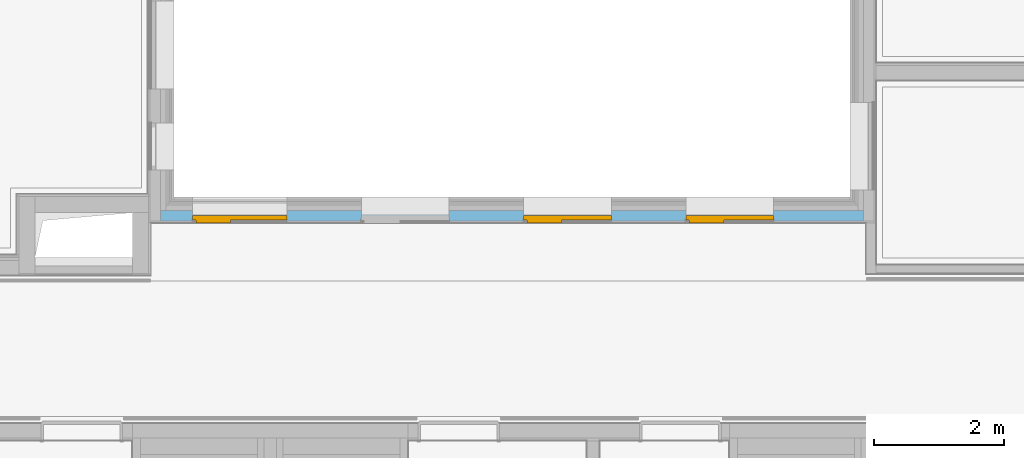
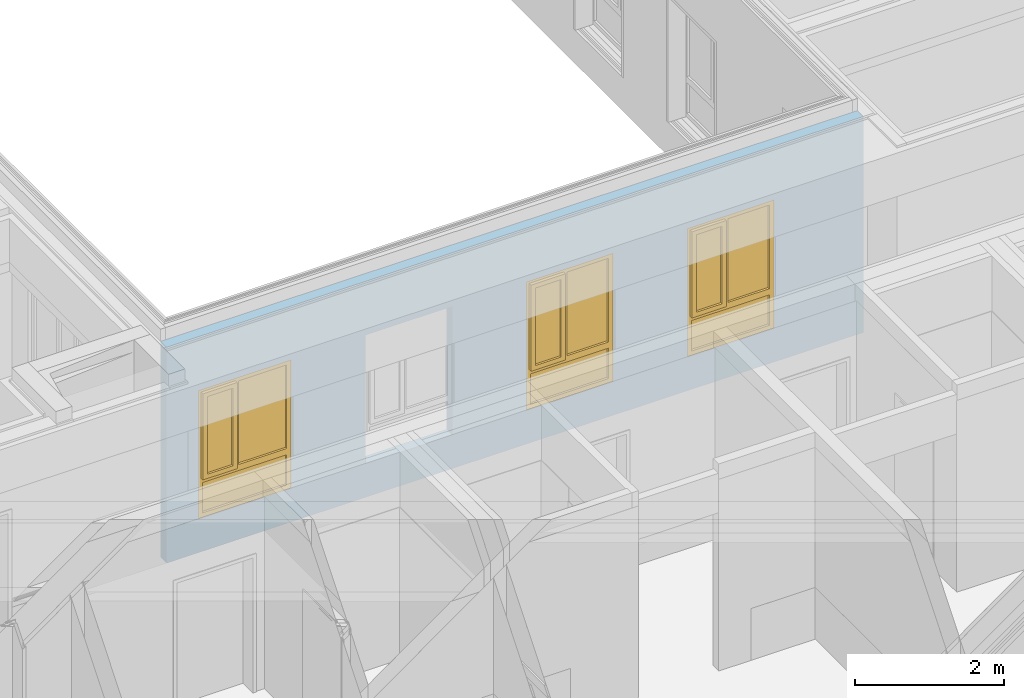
# One storey, part 124 of 222: 3 windows, 4 openings, plus 1 element that does not belong to this part.
"""IFC4 building model written with IfcOpenShell, lengths in metres."""

import ifcopenshell
import ifcopenshell.guid

model = None  # the IFC model being written
_history = None  # IfcOwnerHistory: only IFC2X3 demands one
_inside = {}  # id of a spatial element -> (the spatial element, [elements in it])
_under = {}  # id of a project, library or spatial element -> (it, [spatial elements below it])
_declared = {}  # id of a project -> (the project, [libraries it declares])
_typed = {}  # id of a type object -> (the type object, [elements of that type])
_made_of = {}  # id of a material, layer set ... -> (it, [elements and type objects made of it])


def new_model(schema):
    """Start an empty IFC model of exactly this schema.

    Asked for "IFC4X3", IfcOpenShell would pick the latest addendum, in which some entities
    have other attributes; the version numbers below select the first issue.
    IFC2X3 requires an IfcOwnerHistory on every rooted entity: one is made here for all.
    """
    global model, _history
    if schema == "IFC4X3":
        model = ifcopenshell.file(schema_version=(4, 3, 0, 0))
    else:
        model = ifcopenshell.file(schema=schema)
    _inside.clear()
    _under.clear()
    _declared.clear()
    _typed.clear()
    _made_of.clear()
    _history = None
    if model.schema == "IFC2X3":
        org = make("IfcOrganization", Name="unknown")
        user = make(
            "IfcPersonAndOrganization",
            ThePerson=make("IfcPerson", FamilyName="unknown"),
            TheOrganization=org,
        )
        app = make(
            "IfcApplication",
            ApplicationDeveloper=org,
            Version="unknown",
            ApplicationFullName="unknown",
            ApplicationIdentifier="unknown",
        )
        _history = make(
            "IfcOwnerHistory",
            OwningUser=user,
            OwningApplication=app,
            ChangeAction="ADDED",
            CreationDate=0,
        )
    return model


def make(cls, **values):
    """One entity of the class cls with the attributes given. An attribute that is None is left unset."""
    return model.create_entity(
        cls, **{name: value for name, value in values.items() if value is not None}
    )


def entity(cls, *values):
    """Any entity or typed value of the class cls, its attributes in the order of the schema. None: left unset."""
    e = model.create_entity(cls)
    for i, value in enumerate(values):
        if value is not None:
            e[i] = value
    return e


def rooted(cls, **values):
    """An entity with a GlobalId (a new one), such as an element, a storey or a relation."""
    return make(cls, GlobalId=ifcopenshell.guid.new(), OwnerHistory=_history, **values)


def si_unit(unit_type, name, prefix=None):
    """IfcSIUnit, for example si_unit("LENGTHUNIT", "METRE", prefix="MILLI")."""
    return make("IfcSIUnit", UnitType=unit_type, Prefix=prefix, Name=name)


def converted_unit(unit_type, name, factor, base, dimensions=None, offset=None):
    """IfcConversionBasedUnit, such as the inch: factor (a typed value) times the base unit."""
    return make(
        "IfcConversionBasedUnit"
        if offset is None
        else "IfcConversionBasedUnitWithOffset",
        ConversionOffset=offset,
        Dimensions=None
        if dimensions is None
        else entity("IfcDimensionalExponents", *dimensions),
        UnitType=unit_type,
        Name=name,
        ConversionFactor=make(
            "IfcMeasureWithUnit", ValueComponent=factor, UnitComponent=base
        ),
    )


def derived_unit(unit_type, elements):
    """IfcDerivedUnit: a product of units, each with its exponent."""
    return make(
        "IfcDerivedUnit",
        Elements=[
            make("IfcDerivedUnitElement", Unit=unit, Exponent=power)
            for unit, power in elements
        ],
        UnitType=unit_type,
    )


def assignment(units):
    """IfcUnitAssignment: the units of a project."""
    return None if units is None else make("IfcUnitAssignment", Units=units)


def point(xyz):
    """IfcCartesianPoint."""
    return None if xyz is None else make("IfcCartesianPoint", Coordinates=xyz)


def direction(xyz):
    """IfcDirection."""
    return None if xyz is None else make("IfcDirection", DirectionRatios=xyz)


def frame(location, z_axis=None, x_axis=None):
    """IfcAxis2Placement3D, a coordinate frame: its origin and axes. An axis left out is left unset."""
    return make(
        "IfcAxis2Placement3D",
        Location=point(location),
        Axis=direction(z_axis),
        RefDirection=direction(x_axis),
    )


def frame_2d(location, x_axis=None):
    """IfcAxis2Placement2D, a coordinate frame in the plane: its origin and x axis."""
    return make(
        "IfcAxis2Placement2D", Location=point(location), RefDirection=direction(x_axis)
    )


def origin():
    """The frame at (0, 0, 0) with its axes left unset."""
    return frame((0.0, 0.0, 0.0))


def origin_with_axes():
    """The frame at (0, 0, 0) with the z axis (0, 0, 1) and the x axis (1, 0, 0) written out."""
    return frame((0.0, 0.0, 0.0), z_axis=(0.0, 0.0, 1.0), x_axis=(1.0, 0.0, 0.0))


def place(relative_to, where):
    """IfcLocalPlacement: puts the frame where relative to a parent placement (None: the world)."""
    return make(
        "IfcLocalPlacement", PlacementRelTo=relative_to, RelativePlacement=where
    )


def context(
    kind, dimensions, precision=None, world=None, true_north=None, identifier=None
):
    """IfcGeometricRepresentationContext, for example the 3D "Model" context."""
    return make(
        "IfcGeometricRepresentationContext",
        ContextIdentifier=identifier,
        ContextType=kind,
        CoordinateSpaceDimension=dimensions,
        Precision=precision,
        WorldCoordinateSystem=world,
        TrueNorth=true_north,
    )


def subcontext(parent, identifier, kind, view, scale=None):
    """IfcGeometricRepresentationSubContext, for example "Body" below "Model"."""
    return make(
        "IfcGeometricRepresentationSubContext",
        ContextIdentifier=identifier,
        ContextType=kind,
        ParentContext=parent,
        TargetScale=scale,
        TargetView=view,
    )


def project(units=None, contexts=None):
    """IfcProject with its units and contexts."""
    return rooted(
        "IfcProject",
        Name="project",
        RepresentationContexts=contexts,
        UnitsInContext=assignment(units),
    )


def spatial(cls, under=None, at=None, **own):
    """A site, building, storey or space (cls), placed at a placement, below another one or the project."""
    s = rooted(cls, ObjectPlacement=at, **own)
    if under is not None:
        _under.setdefault(under.id(), (under, []))[1].append(s)
    return s


def polyline(points):
    """IfcPolyline through the points."""
    return make("IfcPolyline", Points=[point(p) for p in points])


def profile(cls, at=None, kind="AREA", **sizes):
    """A parametric profile (cls). Its sizes go by their IFC names, for example OverallWidth=200.0."""
    return make(cls, ProfileType=kind, Position=at, **sizes)


def rectangle(**sizes):
    """IfcRectangleProfileDef."""
    return profile("IfcRectangleProfileDef", **sizes)


def outline(outer, holes=None, kind="AREA"):
    """IfcArbitraryClosedProfileDef: a profile drawn as a closed curve; with holes, ...WithVoids."""
    if holes is None:
        return make("IfcArbitraryClosedProfileDef", ProfileType=kind, OuterCurve=outer)
    return make(
        "IfcArbitraryProfileDefWithVoids",
        ProfileType=kind,
        OuterCurve=outer,
        InnerCurves=holes,
    )


def extrude(swept, where, along, depth):
    """IfcExtrudedAreaSolid: the profile swept, set in the frame where, extruded along a direction by depth."""
    return make(
        "IfcExtrudedAreaSolid",
        SweptArea=swept,
        Position=where,
        ExtrudedDirection=direction(along),
        Depth=depth,
    )


def faces_of(points, faces, orient=None, outer=None):
    """IfcFace entities. A face is a list of loops; a loop is a list of indices into points, from 0.

    orient and outer hold one flag for each loop. By default every Orientation is true, the
    first loop of a face is its IfcFaceOuterBound and the others are IfcFaceBound.
    """
    made = []
    for i, loops in enumerate(faces):
        bounds = []
        for j, loop in enumerate(loops):
            is_outer = j == 0 if outer is None else outer[i][j]
            bounds.append(
                make(
                    "IfcFaceOuterBound" if is_outer else "IfcFaceBound",
                    Bound=make("IfcPolyLoop", Polygon=[points[k] for k in loop]),
                    Orientation=True if orient is None else orient[i][j],
                )
            )
        made.append(make("IfcFace", Bounds=bounds))
    return made


def closed_shell(faces, orient=None, outer=None):
    """The faces of one IfcClosedShell. faceted_brep and surface_model build it on their shared points."""
    return ("IfcClosedShell", faces, orient, outer)


def open_shell(faces, orient=None, outer=None):
    """The faces of one IfcOpenShell. surface_model builds it on its shared points."""
    return ("IfcOpenShell", faces, orient, outer)


def surface_model(cls, points, shells):
    """IfcFaceBasedSurfaceModel or IfcShellBasedSurfaceModel (cls): surfaces that need not close."""
    shared = [point(p) for p in points]
    made = [make(c, CfsFaces=faces_of(shared, fs, o, b)) for c, fs, o, b in shells]
    if cls == "IfcFaceBasedSurfaceModel":
        return make(cls, FbsmFaces=made)
    return make(cls, SbsmBoundary=made)


def shape(context_of_items, identifier, shape_type, items):
    """IfcShapeRepresentation: the items that make up one representation, for example the "Body"."""
    return make(
        "IfcShapeRepresentation",
        ContextOfItems=context_of_items,
        RepresentationIdentifier=identifier,
        RepresentationType=shape_type,
        Items=items,
    )


def source(mapping_origin, context_of_items, identifier, shape_type, items):
    """IfcRepresentationMap: a shape defined once, which mapped items show again and again."""
    return make(
        "IfcRepresentationMap",
        MappingOrigin=mapping_origin,
        MappedRepresentation=shape(context_of_items, identifier, shape_type, items),
    )


def transform(
    local_origin,
    x_axis=None,
    y_axis=None,
    z_axis=None,
    scale=None,
    scale2=None,
    scale3=None,
    uniform=True,
):
    """IfcCartesianTransformationOperator3D, or its non-uniform kind. x_axis, y_axis, z_axis: its Axis1, 2, 3."""
    if uniform:
        return make(
            "IfcCartesianTransformationOperator3D",
            Axis1=direction(x_axis),
            Axis2=direction(y_axis),
            LocalOrigin=point(local_origin),
            Scale=scale,
            Axis3=direction(z_axis),
        )
    return make(
        "IfcCartesianTransformationOperator3DnonUniform",
        Axis1=direction(x_axis),
        Axis2=direction(y_axis),
        LocalOrigin=point(local_origin),
        Scale=scale,
        Axis3=direction(z_axis),
        Scale2=scale2,
        Scale3=scale3,
    )


def mapped(mapping_source, mapping_target):
    """IfcMappedItem: shows the shape of a source again, moved by a transform."""
    return make(
        "IfcMappedItem", MappingSource=mapping_source, MappingTarget=mapping_target
    )


def material(Name=None, Category=None):
    """IfcMaterial."""
    return make("IfcMaterial", Name=Name, Category=Category)


def made_of(thing, what):
    """Note that an element or type object is made of a material, layer set ...; save() writes the relation."""
    if what is not None:
        _made_of.setdefault(what.id(), (what, []))[1].append(thing)
    return thing


def element(
    cls,
    number,
    at=None,
    inside=None,
    cuts=None,
    type_object=None,
    material=None,
    context=None,
    identifier="Body",
    shape_type=None,
    held_by="IfcProductDefinitionShape",
    body=None,
    shapes=None,
    **own,
):
    """One element of the class cls, such as IfcWall. Its Tag is "e" and its number.

    at: its placement. inside: the storey or other place that contains it. cuts: it is an
    opening in that element (IfcRelVoidsElement). A single representation is given by context,
    identifier, shape_type and body (its items); several are given by shapes. held_by: the class
    of the entity that holds the representations. save() writes the other relations.
    """
    e = rooted(cls, Tag="e%d" % number, ObjectPlacement=at, **own)
    if body is not None:
        shapes = [shape(context, identifier, shape_type, body)]
    if shapes is not None:
        e.Representation = make(held_by, Representations=shapes)
    if inside is not None:
        _inside.setdefault(inside.id(), (inside, []))[1].append(e)
    if cuts is not None:
        rooted(
            "IfcRelVoidsElement", RelatingBuildingElement=cuts, RelatedOpeningElement=e
        )
    if type_object is not None:
        _typed.setdefault(type_object.id(), (type_object, []))[1].append(e)
    return made_of(e, material)


def fill(opening, filler):
    """IfcRelFillsElement: the door or window that sits in an opening."""
    return rooted(
        "IfcRelFillsElement",
        RelatingOpeningElement=opening,
        RelatedBuildingElement=filler,
    )


def aggregate(whole, parts):
    """IfcRelAggregates: a whole, such as a stair, and the parts it consists of."""
    return rooted("IfcRelAggregates", RelatingObject=whole, RelatedObjects=parts)


def save(model, path):
    """Write the relations noted so far, then the file.

    IfcRelAggregates (storeys below a building ...), IfcRelContainedInSpatialStructure (elements
    in a storey), IfcRelDefinesByType, IfcRelAssociatesMaterial and IfcRelDeclares: one each for
    every whole, place, type object, material and project.
    """
    for whole, parts in _under.values():
        aggregate(whole, parts)
    for where, things in _inside.values():
        rooted(
            "IfcRelContainedInSpatialStructure",
            RelatedElements=things,
            RelatingStructure=where,
        )
    for kind, things in _typed.values():
        rooted("IfcRelDefinesByType", RelatedObjects=things, RelatingType=kind)
    for what, things in _made_of.values():
        rooted("IfcRelAssociatesMaterial", RelatedObjects=things, RelatingMaterial=what)
    for by, libraries in _declared.values():
        rooted("IfcRelDeclares", RelatingContext=by, RelatedDefinitions=libraries)
    model.write(path)


model = new_model("IFC4")

# Units and contexts
model_context = context("Model", 3, precision=1e-05, world=origin())
body_context = subcontext(model_context, "Body", "Model", "MODEL_VIEW")
ifc_project = project(units=[si_unit("LENGTHUNIT", "METRE"), si_unit("AREAUNIT", "SQUARE_METRE"), si_unit("VOLUMEUNIT", "CUBIC_METRE"), si_unit("MASSUNIT", "GRAM", prefix="KILO"), converted_unit("PLANEANGLEUNIT", "DEGREE", entity("IfcPlaneAngleMeasure", 0.0174532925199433), si_unit("PLANEANGLEUNIT", "RADIAN"), dimensions=[0, 0, 0, 0, 0, 0, 0]), derived_unit("THERMALTRANSMITTANCEUNIT", [(si_unit("POWERUNIT", "WATT"), 1), (si_unit("THERMODYNAMICTEMPERATUREUNIT", "KELVIN"), -1), (si_unit("LENGTHUNIT", "METRE"), -2)]), derived_unit("VOLUMETRICFLOWRATEUNIT", [(si_unit("LENGTHUNIT", "METRE"), 3), (converted_unit("TIMEUNIT", "hour", entity("IfcTimeMeasure", 3600.0), si_unit("TIMEUNIT", "SECOND"), dimensions=[0, 0, 1, 0, 0, 0, 0]), -1), (si_unit("LENGTHUNIT", "METRE"), -1)])], contexts=[model_context])

# Site, building, storey
site_placement = place(None, origin())
site = spatial("IfcSite", under=ifc_project, at=site_placement, Name="Psychiatrie Neubau Wunstorf", CompositionType="ELEMENT")
building_placement = place(site_placement, origin())
building = spatial("IfcBuilding", under=site, at=building_placement, Name="Neubau H2 Stationsgebäude", CompositionType="ELEMENT")
storey_placement = place(building_placement, frame((0.0, 0.0, 3.6)))
storey = spatial("IfcBuildingStorey", under=building, at=storey_placement, Name="H2 Ebene +1", CompositionType="ELEMENT", Elevation=3.6)

# Wall, openings, windows
ifc_material = material(Name="WA-DL")
wall_placement = place(storey_placement, frame((79.335, 8.45000000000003, 0.0), z_axis=(0.0, 0.0, 1.0), x_axis=(1.0, -6.71833574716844e-16, 0.0)))
wall = element("IfcWall", 1, at=wall_placement, inside=storey, material=ifc_material, context=body_context, shape_type="SweptSolid", body=[
    extrude(rectangle(XDim=10.83, YDim=0.16, at=frame_2d((5.415, 0.08), x_axis=(1.0, 0.0))), origin_with_axes(), (0.0, 0.0, 1.0), 3.55),
])
opening_1_placement = place(wall_placement, frame((1.9448371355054, 0.16, 0.55), z_axis=(0.0, -1.0, 0.0), x_axis=(0.0, 0.0, 1.0)))
opening_1 = element("IfcOpeningElement", 2, at=opening_1_placement, cuts=wall, Name="Fensteröffnung", ObjectType="Opening", context=body_context, shape_type="SweptSolid", body=[
    extrude(outline(polyline([(2.115, 1.45), (2.115, 0.0), (0.0, 0.0), (0.0, 1.45), (2.115, 1.45)])), origin_with_axes(), (0.0, 0.0, 1.0), 0.16),
])
opening_2_placement = place(wall_placement, frame((9.4447, 0.160000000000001, 0.55), z_axis=(0.0, -1.0, 0.0), x_axis=(0.0, 0.0, 1.0)))
opening_2 = element("IfcOpeningElement", 3, at=opening_2_placement, cuts=wall, Name="Fensteröffnung", ObjectType="Opening", context=body_context, shape_type="SweptSolid", body=[
    extrude(outline(polyline([(2.115, 1.35), (2.115, 0.0), (0.0, 0.0), (0.0, 1.35), (2.115, 1.35)])), origin_with_axes(), (0.0, 0.0, 1.0), 0.16),
])
opening_3_placement = place(wall_placement, frame((6.9447, 0.159999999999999, 0.55), z_axis=(0.0, -1.0, 0.0), x_axis=(0.0, 0.0, 1.0)))
opening_3 = element("IfcOpeningElement", 4, at=opening_3_placement, cuts=wall, Name="Fensteröffnung", ObjectType="Opening", context=body_context, shape_type="SweptSolid", body=[
    extrude(outline(polyline([(2.115, 1.35), (2.115, 0.0), (0.0, 0.0), (0.0, 1.35), (2.115, 1.35)])), origin_with_axes(), (0.0, 0.0, 1.0), 0.16),
])
opening_4_placement = place(wall_placement, frame((4.4447, 0.159999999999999, 0.55), z_axis=(0.0, -1.0, 0.0), x_axis=(0.0, 0.0, 1.0)))
element("IfcOpeningElement", 5, at=opening_4_placement, cuts=wall, Name="Fensteröffnung", ObjectType="Opening", context=body_context, shape_type="SweptSolid", body=[
    extrude(outline(polyline([(2.115, 1.35), (2.115, 0.0), (0.0, 0.0), (0.0, 1.35), (2.115, 1.35)])), origin_with_axes(), (0.0, 0.0, 1.0), 0.16),
])
shared_shape_1 = source(origin_with_axes(), body_context, "Body", "SurfaceModel", [
    surface_model("IfcShellBasedSurfaceModel", [(0.0, 9.18421717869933e-06, 2.115), (0.07, 9.18421717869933e-06, 2.115), (0.07, 9.18421717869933e-06, 0.0), (0.0, 9.18421717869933e-06, 0.0), (0.0, 0.0700091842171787, 0.0), (0.07, 0.0700091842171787, 0.0), (0.07, 0.0700091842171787, 2.115), (0.0, 0.0700091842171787, 2.115)], [closed_shell([[[0, 1, 2, 3]], [[4, 5, 6, 7]], [[3, 4, 7, 0]], [[2, 5, 4, 3]], [[1, 6, 5, 2]], [[0, 7, 6, 1]]], orient=[[False], [False], [False], [False], [False], [False]])]),
    surface_model("IfcShellBasedSurfaceModel", [(1.38, 9.18421717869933e-06, 2.115), (1.45, 9.18421717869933e-06, 2.115), (1.45, 9.18421717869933e-06, 0.0), (1.38, 9.18421717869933e-06, 0.0), (1.38, 0.0700091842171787, 0.0), (1.45, 0.0700091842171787, 0.0), (1.45, 0.0700091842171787, 2.115), (1.38, 0.0700091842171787, 2.115)], [closed_shell([[[0, 1, 2, 3]], [[4, 5, 6, 7]], [[3, 4, 7, 0]], [[2, 5, 4, 3]], [[1, 6, 5, 2]], [[0, 7, 6, 1]]], orient=[[False], [False], [False], [False], [False], [False]])]),
    surface_model("IfcShellBasedSurfaceModel", [(0.07, 9.18421717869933e-06, 0.07), (1.38, 9.18421717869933e-06, 0.07), (1.38, 9.18421717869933e-06, 0.0), (0.07, 9.18421717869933e-06, 0.0), (0.07, 0.0700091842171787, 0.0), (1.38, 0.0700091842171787, 0.0), (1.38, 0.0700091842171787, 0.07), (0.07, 0.0700091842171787, 0.07)], [closed_shell([[[0, 1, 2, 3]], [[4, 5, 6, 7]], [[3, 4, 7, 0]], [[2, 5, 4, 3]], [[1, 6, 5, 2]], [[0, 7, 6, 1]]], orient=[[False], [False], [False], [False], [False], [False]])]),
    surface_model("IfcShellBasedSurfaceModel", [(0.07, 9.18421717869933e-06, 2.115), (1.38, 9.18421717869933e-06, 2.115), (1.38, 9.18421717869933e-06, 2.045), (0.07, 9.18421717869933e-06, 2.045), (0.07, 0.0700091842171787, 2.045), (1.38, 0.0700091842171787, 2.045), (1.38, 0.0700091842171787, 2.115), (0.07, 0.0700091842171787, 2.115)], [closed_shell([[[0, 1, 2, 3]], [[4, 5, 6, 7]], [[3, 4, 7, 0]], [[2, 5, 4, 3]], [[1, 6, 5, 2]], [[0, 7, 6, 1]]], orient=[[False], [False], [False], [False], [False], [False]])]),
    surface_model("IfcShellBasedSurfaceModel", [(0.07, 9.18421717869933e-06, 0.67), (1.38, 9.18421717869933e-06, 0.67), (1.38, 9.18421717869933e-06, 0.57), (0.07, 9.18421717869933e-06, 0.57), (0.07, 0.0700091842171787, 0.57), (1.38, 0.0700091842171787, 0.57), (1.38, 0.0700091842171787, 0.67), (0.07, 0.0700091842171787, 0.67)], [closed_shell([[[0, 1, 2, 3]], [[4, 5, 6, 7]], [[3, 4, 7, 0]], [[2, 5, 4, 3]], [[1, 6, 5, 2]], [[0, 7, 6, 1]]], orient=[[False], [False], [False], [False], [False], [False]])]),
    surface_model("IfcShellBasedSurfaceModel", [(0.07, 0.0350091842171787, 0.07), (0.07, 0.0350091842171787, 0.57), (1.38, 0.0350091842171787, 0.57), (1.38, 0.0350091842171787, 0.07)], [open_shell([[[0, 1, 2, 3]]], orient=[[False]])]),
    surface_model("IfcShellBasedSurfaceModel", [(0.565699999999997, 9.18421717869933e-06, 2.045), (0.635699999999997, 9.18421717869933e-06, 2.045), (0.635699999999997, 9.18421717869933e-06, 0.67), (0.565699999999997, 9.18421717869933e-06, 0.67), (0.565699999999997, 0.0700091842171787, 0.67), (0.635699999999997, 0.0700091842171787, 0.67), (0.635699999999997, 0.0700091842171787, 2.045), (0.565699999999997, 0.0700091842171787, 2.045)], [closed_shell([[[0, 1, 2, 3]], [[4, 5, 6, 7]], [[3, 4, 7, 0]], [[2, 5, 4, 3]], [[1, 6, 5, 2]], [[0, 7, 6, 1]]], orient=[[False], [False], [False], [False], [False], [False]])]),
    surface_model("IfcShellBasedSurfaceModel", [(0.05, -0.0499908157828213, 2.065), (0.12, -0.0499908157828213, 2.065), (0.12, -0.0499908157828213, 0.65), (0.05, -0.0499908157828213, 0.65), (0.05, 0.0200091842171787, 0.65), (0.12, 0.0200091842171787, 0.65), (0.12, 0.0200091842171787, 2.065), (0.05, 0.0200091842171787, 2.065)], [closed_shell([[[0, 1, 2, 3]], [[4, 5, 6, 7]], [[3, 4, 7, 0]], [[2, 5, 4, 3]], [[1, 6, 5, 2]], [[0, 7, 6, 1]]], orient=[[False], [False], [False], [False], [False], [False]])]),
    surface_model("IfcShellBasedSurfaceModel", [(0.515699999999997, -0.0499908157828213, 2.065), (0.585699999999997, -0.0499908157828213, 2.065), (0.585699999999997, -0.0499908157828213, 0.65), (0.515699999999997, -0.0499908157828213, 0.65), (0.515699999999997, 0.0200091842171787, 0.65), (0.585699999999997, 0.0200091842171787, 0.65), (0.585699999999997, 0.0200091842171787, 2.065), (0.515699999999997, 0.0200091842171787, 2.065)], [closed_shell([[[0, 1, 2, 3]], [[4, 5, 6, 7]], [[3, 4, 7, 0]], [[2, 5, 4, 3]], [[1, 6, 5, 2]], [[0, 7, 6, 1]]], orient=[[False], [False], [False], [False], [False], [False]])]),
    surface_model("IfcShellBasedSurfaceModel", [(0.12, -0.0499908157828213, 0.72), (0.515699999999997, -0.0499908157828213, 0.72), (0.515699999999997, -0.0499908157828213, 0.65), (0.12, -0.0499908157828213, 0.65), (0.12, 0.0200091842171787, 0.65), (0.515699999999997, 0.0200091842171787, 0.65), (0.515699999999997, 0.0200091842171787, 0.72), (0.12, 0.0200091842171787, 0.72)], [closed_shell([[[0, 1, 2, 3]], [[4, 5, 6, 7]], [[3, 4, 7, 0]], [[2, 5, 4, 3]], [[1, 6, 5, 2]], [[0, 7, 6, 1]]], orient=[[False], [False], [False], [False], [False], [False]])]),
    surface_model("IfcShellBasedSurfaceModel", [(0.12, -0.0499908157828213, 2.065), (0.515699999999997, -0.0499908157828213, 2.065), (0.515699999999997, -0.0499908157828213, 1.995), (0.12, -0.0499908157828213, 1.995), (0.12, 0.0200091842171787, 1.995), (0.515699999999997, 0.0200091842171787, 1.995), (0.515699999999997, 0.0200091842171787, 2.065), (0.12, 0.0200091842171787, 2.065)], [closed_shell([[[0, 1, 2, 3]], [[4, 5, 6, 7]], [[3, 4, 7, 0]], [[2, 5, 4, 3]], [[1, 6, 5, 2]], [[0, 7, 6, 1]]], orient=[[False], [False], [False], [False], [False], [False]])]),
    surface_model("IfcShellBasedSurfaceModel", [(0.635699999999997, 0.0350091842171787, 0.67), (0.635699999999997, 0.0350091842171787, 2.045), (1.38, 0.0350091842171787, 2.045), (1.38, 0.0350091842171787, 0.67)], [open_shell([[[0, 1, 2, 3]]], orient=[[False]])]),
    surface_model("IfcShellBasedSurfaceModel", [(0.12, -0.0149908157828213, 0.72), (0.12, -0.0149908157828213, 1.995), (0.515699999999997, -0.0149908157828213, 1.995), (0.515699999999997, -0.0149908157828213, 0.72)], [open_shell([[[0, 1, 2, 3]]], orient=[[False]])]),
])
window_1_placement = place(opening_1_placement, frame((0.0, 1.45, 0.146), z_axis=(1.0, 0.0, 0.0), x_axis=(0.0, -1.0, -6.71833574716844e-16)))
window_1 = element("IfcWindow", 6, at=window_1_placement, inside=storey, Name="Fenster", OverallHeight=2.115, OverallWidth=1.45, PartitioningType="USERDEFINED", PredefinedType="WINDOW", context=body_context, shape_type="MappedRepresentation", body=[
    mapped(shared_shape_1, transform((0.0, 0.0, 0.0), x_axis=(1.0, 0.0, 0.0), y_axis=(0.0, 1.0, 0.0), z_axis=(0.0, 0.0, 1.0), scale=1.0)),
])
fill(opening_1, window_1)
shared_shape_2 = source(origin_with_axes(), body_context, "Body", "SurfaceModel", [
    surface_model("IfcShellBasedSurfaceModel", [(0.0, 9.1842171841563e-06, 2.115), (0.07, 9.1842171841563e-06, 2.115), (0.07, 9.1842171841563e-06, 0.0), (0.0, 9.1842171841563e-06, 0.0), (0.0, 0.0700091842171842, 0.0), (0.07, 0.0700091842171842, 0.0), (0.07, 0.0700091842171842, 2.115), (0.0, 0.0700091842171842, 2.115)], [closed_shell([[[0, 1, 2, 3]], [[4, 5, 6, 7]], [[3, 4, 7, 0]], [[2, 5, 4, 3]], [[1, 6, 5, 2]], [[0, 7, 6, 1]]], orient=[[False], [False], [False], [False], [False], [False]])]),
    surface_model("IfcShellBasedSurfaceModel", [(1.28, 9.1842171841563e-06, 2.115), (1.35, 9.1842171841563e-06, 2.115), (1.35, 9.1842171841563e-06, 0.0), (1.28, 9.1842171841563e-06, 0.0), (1.28, 0.0700091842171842, 0.0), (1.35, 0.0700091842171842, 0.0), (1.35, 0.0700091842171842, 2.115), (1.28, 0.0700091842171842, 2.115)], [closed_shell([[[0, 1, 2, 3]], [[4, 5, 6, 7]], [[3, 4, 7, 0]], [[2, 5, 4, 3]], [[1, 6, 5, 2]], [[0, 7, 6, 1]]], orient=[[False], [False], [False], [False], [False], [False]])]),
    surface_model("IfcShellBasedSurfaceModel", [(0.07, 9.1842171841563e-06, 0.07), (1.28, 9.1842171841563e-06, 0.07), (1.28, 9.1842171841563e-06, 0.0), (0.07, 9.1842171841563e-06, 0.0), (0.07, 0.0700091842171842, 0.0), (1.28, 0.0700091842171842, 0.0), (1.28, 0.0700091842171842, 0.07), (0.07, 0.0700091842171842, 0.07)], [closed_shell([[[0, 1, 2, 3]], [[4, 5, 6, 7]], [[3, 4, 7, 0]], [[2, 5, 4, 3]], [[1, 6, 5, 2]], [[0, 7, 6, 1]]], orient=[[False], [False], [False], [False], [False], [False]])]),
    surface_model("IfcShellBasedSurfaceModel", [(0.07, 9.1842171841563e-06, 2.115), (1.28, 9.1842171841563e-06, 2.115), (1.28, 9.1842171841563e-06, 2.045), (0.07, 9.1842171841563e-06, 2.045), (0.07, 0.0700091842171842, 2.045), (1.28, 0.0700091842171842, 2.045), (1.28, 0.0700091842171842, 2.115), (0.07, 0.0700091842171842, 2.115)], [closed_shell([[[0, 1, 2, 3]], [[4, 5, 6, 7]], [[3, 4, 7, 0]], [[2, 5, 4, 3]], [[1, 6, 5, 2]], [[0, 7, 6, 1]]], orient=[[False], [False], [False], [False], [False], [False]])]),
    surface_model("IfcShellBasedSurfaceModel", [(0.07, 9.1842171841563e-06, 0.67), (1.28, 9.1842171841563e-06, 0.67), (1.28, 9.1842171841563e-06, 0.57), (0.07, 9.1842171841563e-06, 0.57), (0.07, 0.0700091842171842, 0.57), (1.28, 0.0700091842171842, 0.57), (1.28, 0.0700091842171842, 0.67), (0.07, 0.0700091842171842, 0.67)], [closed_shell([[[0, 1, 2, 3]], [[4, 5, 6, 7]], [[3, 4, 7, 0]], [[2, 5, 4, 3]], [[1, 6, 5, 2]], [[0, 7, 6, 1]]], orient=[[False], [False], [False], [False], [False], [False]])]),
    surface_model("IfcShellBasedSurfaceModel", [(0.07, 0.0350091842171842, 0.07), (0.07, 0.0350091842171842, 0.57), (1.28, 0.0350091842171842, 0.57), (1.28, 0.0350091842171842, 0.07)], [open_shell([[[0, 1, 2, 3]]], orient=[[False]])]),
    surface_model("IfcShellBasedSurfaceModel", [(0.565699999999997, 9.1842171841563e-06, 2.045), (0.635699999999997, 9.1842171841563e-06, 2.045), (0.635699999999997, 9.1842171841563e-06, 0.67), (0.565699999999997, 9.1842171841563e-06, 0.67), (0.565699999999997, 0.0700091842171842, 0.67), (0.635699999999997, 0.0700091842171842, 0.67), (0.635699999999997, 0.0700091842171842, 2.045), (0.565699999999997, 0.0700091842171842, 2.045)], [closed_shell([[[0, 1, 2, 3]], [[4, 5, 6, 7]], [[3, 4, 7, 0]], [[2, 5, 4, 3]], [[1, 6, 5, 2]], [[0, 7, 6, 1]]], orient=[[False], [False], [False], [False], [False], [False]])]),
    surface_model("IfcShellBasedSurfaceModel", [(0.05, -0.0499908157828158, 2.065), (0.12, -0.0499908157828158, 2.065), (0.12, -0.0499908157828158, 0.65), (0.05, -0.0499908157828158, 0.65), (0.05, 0.0200091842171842, 0.65), (0.12, 0.0200091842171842, 0.65), (0.12, 0.0200091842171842, 2.065), (0.05, 0.0200091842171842, 2.065)], [closed_shell([[[0, 1, 2, 3]], [[4, 5, 6, 7]], [[3, 4, 7, 0]], [[2, 5, 4, 3]], [[1, 6, 5, 2]], [[0, 7, 6, 1]]], orient=[[False], [False], [False], [False], [False], [False]])]),
    surface_model("IfcShellBasedSurfaceModel", [(0.515699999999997, -0.0499908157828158, 2.065), (0.585699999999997, -0.0499908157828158, 2.065), (0.585699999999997, -0.0499908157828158, 0.65), (0.515699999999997, -0.0499908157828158, 0.65), (0.515699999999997, 0.0200091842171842, 0.65), (0.585699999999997, 0.0200091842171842, 0.65), (0.585699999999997, 0.0200091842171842, 2.065), (0.515699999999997, 0.0200091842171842, 2.065)], [closed_shell([[[0, 1, 2, 3]], [[4, 5, 6, 7]], [[3, 4, 7, 0]], [[2, 5, 4, 3]], [[1, 6, 5, 2]], [[0, 7, 6, 1]]], orient=[[False], [False], [False], [False], [False], [False]])]),
    surface_model("IfcShellBasedSurfaceModel", [(0.12, -0.0499908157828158, 0.72), (0.515699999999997, -0.0499908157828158, 0.72), (0.515699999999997, -0.0499908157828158, 0.65), (0.12, -0.0499908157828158, 0.65), (0.12, 0.0200091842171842, 0.65), (0.515699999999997, 0.0200091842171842, 0.65), (0.515699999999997, 0.0200091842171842, 0.72), (0.12, 0.0200091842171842, 0.72)], [closed_shell([[[0, 1, 2, 3]], [[4, 5, 6, 7]], [[3, 4, 7, 0]], [[2, 5, 4, 3]], [[1, 6, 5, 2]], [[0, 7, 6, 1]]], orient=[[False], [False], [False], [False], [False], [False]])]),
    surface_model("IfcShellBasedSurfaceModel", [(0.12, -0.0499908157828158, 2.065), (0.515699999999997, -0.0499908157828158, 2.065), (0.515699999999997, -0.0499908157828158, 1.995), (0.12, -0.0499908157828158, 1.995), (0.12, 0.0200091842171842, 1.995), (0.515699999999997, 0.0200091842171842, 1.995), (0.515699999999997, 0.0200091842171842, 2.065), (0.12, 0.0200091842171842, 2.065)], [closed_shell([[[0, 1, 2, 3]], [[4, 5, 6, 7]], [[3, 4, 7, 0]], [[2, 5, 4, 3]], [[1, 6, 5, 2]], [[0, 7, 6, 1]]], orient=[[False], [False], [False], [False], [False], [False]])]),
    surface_model("IfcShellBasedSurfaceModel", [(0.635699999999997, 0.0350091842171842, 0.67), (0.635699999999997, 0.0350091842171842, 2.045), (1.28, 0.0350091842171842, 2.045), (1.28, 0.0350091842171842, 0.67)], [open_shell([[[0, 1, 2, 3]]], orient=[[False]])]),
    surface_model("IfcShellBasedSurfaceModel", [(0.12, -0.0149908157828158, 0.72), (0.12, -0.0149908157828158, 1.995), (0.515699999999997, -0.0149908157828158, 1.995), (0.515699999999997, -0.0149908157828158, 0.72)], [open_shell([[[0, 1, 2, 3]]], orient=[[False]])]),
])
window_2_placement = place(opening_2_placement, frame((0.0, 1.35, 0.146000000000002), z_axis=(1.0, 0.0, 0.0), x_axis=(0.0, -1.0, -6.71833574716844e-16)))
window_2 = element("IfcWindow", 7, at=window_2_placement, inside=storey, Name="Fenster", OverallHeight=2.115, OverallWidth=1.35, PartitioningType="USERDEFINED", PredefinedType="WINDOW", context=body_context, shape_type="MappedRepresentation", body=[
    mapped(shared_shape_2, transform((0.0, 0.0, 0.0), x_axis=(1.0, 0.0, 0.0), y_axis=(0.0, 1.0, 0.0), z_axis=(0.0, 0.0, 1.0), scale=1.0)),
])
fill(opening_2, window_2)
shared_shape_3 = source(origin_with_axes(), body_context, "Body", "SurfaceModel", [
    surface_model("IfcShellBasedSurfaceModel", [(0.0, 9.18421718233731e-06, 2.115), (0.07, 9.18421718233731e-06, 2.115), (0.07, 9.18421718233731e-06, 0.0), (0.0, 9.18421718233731e-06, 0.0), (0.0, 0.0700091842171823, 0.0), (0.07, 0.0700091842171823, 0.0), (0.07, 0.0700091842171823, 2.115), (0.0, 0.0700091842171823, 2.115)], [closed_shell([[[0, 1, 2, 3]], [[4, 5, 6, 7]], [[3, 4, 7, 0]], [[2, 5, 4, 3]], [[1, 6, 5, 2]], [[0, 7, 6, 1]]], orient=[[False], [False], [False], [False], [False], [False]])]),
    surface_model("IfcShellBasedSurfaceModel", [(1.28, 9.18421718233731e-06, 2.115), (1.35, 9.18421718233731e-06, 2.115), (1.35, 9.18421718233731e-06, 0.0), (1.28, 9.18421718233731e-06, 0.0), (1.28, 0.0700091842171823, 0.0), (1.35, 0.0700091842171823, 0.0), (1.35, 0.0700091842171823, 2.115), (1.28, 0.0700091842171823, 2.115)], [closed_shell([[[0, 1, 2, 3]], [[4, 5, 6, 7]], [[3, 4, 7, 0]], [[2, 5, 4, 3]], [[1, 6, 5, 2]], [[0, 7, 6, 1]]], orient=[[False], [False], [False], [False], [False], [False]])]),
    surface_model("IfcShellBasedSurfaceModel", [(0.07, 9.18421718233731e-06, 0.07), (1.28, 9.18421718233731e-06, 0.07), (1.28, 9.18421718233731e-06, 0.0), (0.07, 9.18421718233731e-06, 0.0), (0.07, 0.0700091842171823, 0.0), (1.28, 0.0700091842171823, 0.0), (1.28, 0.0700091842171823, 0.07), (0.07, 0.0700091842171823, 0.07)], [closed_shell([[[0, 1, 2, 3]], [[4, 5, 6, 7]], [[3, 4, 7, 0]], [[2, 5, 4, 3]], [[1, 6, 5, 2]], [[0, 7, 6, 1]]], orient=[[False], [False], [False], [False], [False], [False]])]),
    surface_model("IfcShellBasedSurfaceModel", [(0.07, 9.18421718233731e-06, 2.115), (1.28, 9.18421718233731e-06, 2.115), (1.28, 9.18421718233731e-06, 2.045), (0.07, 9.18421718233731e-06, 2.045), (0.07, 0.0700091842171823, 2.045), (1.28, 0.0700091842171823, 2.045), (1.28, 0.0700091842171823, 2.115), (0.07, 0.0700091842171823, 2.115)], [closed_shell([[[0, 1, 2, 3]], [[4, 5, 6, 7]], [[3, 4, 7, 0]], [[2, 5, 4, 3]], [[1, 6, 5, 2]], [[0, 7, 6, 1]]], orient=[[False], [False], [False], [False], [False], [False]])]),
    surface_model("IfcShellBasedSurfaceModel", [(0.07, 9.18421718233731e-06, 0.67), (1.28, 9.18421718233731e-06, 0.67), (1.28, 9.18421718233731e-06, 0.57), (0.07, 9.18421718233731e-06, 0.57), (0.07, 0.0700091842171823, 0.57), (1.28, 0.0700091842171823, 0.57), (1.28, 0.0700091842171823, 0.67), (0.07, 0.0700091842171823, 0.67)], [closed_shell([[[0, 1, 2, 3]], [[4, 5, 6, 7]], [[3, 4, 7, 0]], [[2, 5, 4, 3]], [[1, 6, 5, 2]], [[0, 7, 6, 1]]], orient=[[False], [False], [False], [False], [False], [False]])]),
    surface_model("IfcShellBasedSurfaceModel", [(0.07, 0.0350091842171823, 0.07), (0.07, 0.0350091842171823, 0.57), (1.28, 0.0350091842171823, 0.57), (1.28, 0.0350091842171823, 0.07)], [open_shell([[[0, 1, 2, 3]]], orient=[[False]])]),
    surface_model("IfcShellBasedSurfaceModel", [(0.565699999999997, 9.18421718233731e-06, 2.045), (0.635699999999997, 9.18421718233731e-06, 2.045), (0.635699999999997, 9.18421718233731e-06, 0.67), (0.565699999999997, 9.18421718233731e-06, 0.67), (0.565699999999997, 0.0700091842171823, 0.67), (0.635699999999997, 0.0700091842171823, 0.67), (0.635699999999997, 0.0700091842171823, 2.045), (0.565699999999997, 0.0700091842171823, 2.045)], [closed_shell([[[0, 1, 2, 3]], [[4, 5, 6, 7]], [[3, 4, 7, 0]], [[2, 5, 4, 3]], [[1, 6, 5, 2]], [[0, 7, 6, 1]]], orient=[[False], [False], [False], [False], [False], [False]])]),
    surface_model("IfcShellBasedSurfaceModel", [(0.05, -0.0499908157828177, 2.065), (0.12, -0.0499908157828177, 2.065), (0.12, -0.0499908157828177, 0.65), (0.05, -0.0499908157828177, 0.65), (0.05, 0.0200091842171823, 0.65), (0.12, 0.0200091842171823, 0.65), (0.12, 0.0200091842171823, 2.065), (0.05, 0.0200091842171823, 2.065)], [closed_shell([[[0, 1, 2, 3]], [[4, 5, 6, 7]], [[3, 4, 7, 0]], [[2, 5, 4, 3]], [[1, 6, 5, 2]], [[0, 7, 6, 1]]], orient=[[False], [False], [False], [False], [False], [False]])]),
    surface_model("IfcShellBasedSurfaceModel", [(0.515699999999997, -0.0499908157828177, 2.065), (0.585699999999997, -0.0499908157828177, 2.065), (0.585699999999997, -0.0499908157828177, 0.65), (0.515699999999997, -0.0499908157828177, 0.65), (0.515699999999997, 0.0200091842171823, 0.65), (0.585699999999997, 0.0200091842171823, 0.65), (0.585699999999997, 0.0200091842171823, 2.065), (0.515699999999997, 0.0200091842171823, 2.065)], [closed_shell([[[0, 1, 2, 3]], [[4, 5, 6, 7]], [[3, 4, 7, 0]], [[2, 5, 4, 3]], [[1, 6, 5, 2]], [[0, 7, 6, 1]]], orient=[[False], [False], [False], [False], [False], [False]])]),
    surface_model("IfcShellBasedSurfaceModel", [(0.12, -0.0499908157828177, 0.72), (0.515699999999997, -0.0499908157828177, 0.72), (0.515699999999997, -0.0499908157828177, 0.65), (0.12, -0.0499908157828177, 0.65), (0.12, 0.0200091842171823, 0.65), (0.515699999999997, 0.0200091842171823, 0.65), (0.515699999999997, 0.0200091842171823, 0.72), (0.12, 0.0200091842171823, 0.72)], [closed_shell([[[0, 1, 2, 3]], [[4, 5, 6, 7]], [[3, 4, 7, 0]], [[2, 5, 4, 3]], [[1, 6, 5, 2]], [[0, 7, 6, 1]]], orient=[[False], [False], [False], [False], [False], [False]])]),
    surface_model("IfcShellBasedSurfaceModel", [(0.12, -0.0499908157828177, 2.065), (0.515699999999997, -0.0499908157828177, 2.065), (0.515699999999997, -0.0499908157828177, 1.995), (0.12, -0.0499908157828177, 1.995), (0.12, 0.0200091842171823, 1.995), (0.515699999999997, 0.0200091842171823, 1.995), (0.515699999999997, 0.0200091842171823, 2.065), (0.12, 0.0200091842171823, 2.065)], [closed_shell([[[0, 1, 2, 3]], [[4, 5, 6, 7]], [[3, 4, 7, 0]], [[2, 5, 4, 3]], [[1, 6, 5, 2]], [[0, 7, 6, 1]]], orient=[[False], [False], [False], [False], [False], [False]])]),
    surface_model("IfcShellBasedSurfaceModel", [(0.635699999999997, 0.0350091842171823, 0.67), (0.635699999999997, 0.0350091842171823, 2.045), (1.28, 0.0350091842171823, 2.045), (1.28, 0.0350091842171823, 0.67)], [open_shell([[[0, 1, 2, 3]]], orient=[[False]])]),
    surface_model("IfcShellBasedSurfaceModel", [(0.12, -0.0149908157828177, 0.72), (0.12, -0.0149908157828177, 1.995), (0.515699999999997, -0.0149908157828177, 1.995), (0.515699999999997, -0.0149908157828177, 0.72)], [open_shell([[[0, 1, 2, 3]]], orient=[[False]])]),
])
window_3_placement = place(opening_3_placement, frame((0.0, 1.35, 0.146), z_axis=(1.0, 0.0, 0.0), x_axis=(0.0, -1.0, -6.71833574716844e-16)))
window_3 = element("IfcWindow", 8, at=window_3_placement, inside=storey, Name="Fenster", OverallHeight=2.115, OverallWidth=1.35, PartitioningType="USERDEFINED", PredefinedType="WINDOW", context=body_context, shape_type="MappedRepresentation", body=[
    mapped(shared_shape_3, transform((0.0, 0.0, 0.0), x_axis=(1.0, 0.0, 0.0), y_axis=(0.0, 1.0, 0.0), z_axis=(0.0, 0.0, 1.0), scale=1.0)),
])
fill(opening_3, window_3)

save(model, "model.ifc")
